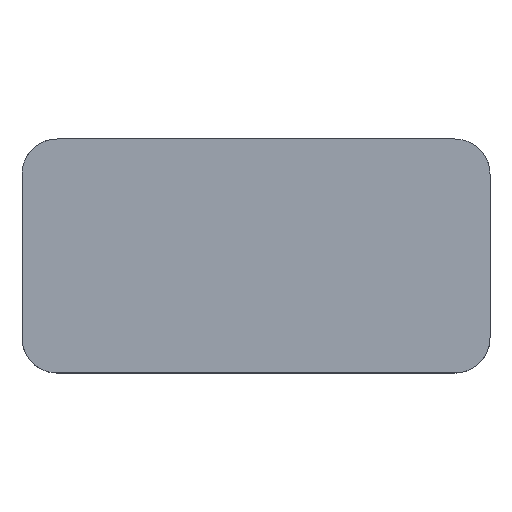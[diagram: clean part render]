
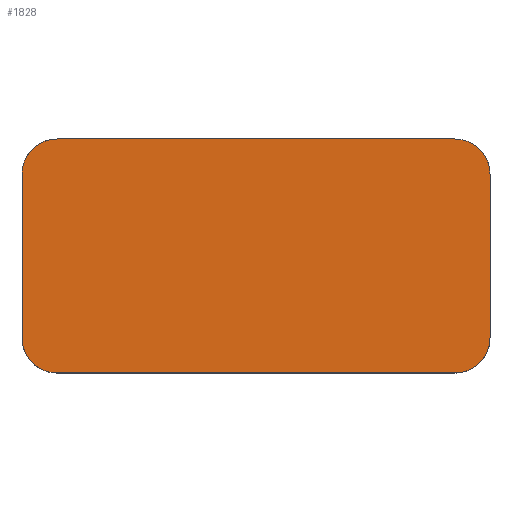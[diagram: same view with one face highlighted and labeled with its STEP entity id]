
A CAD part, top view. The second image highlights one B-rep face of the part: STEP entity #1828.
In plain terms, the highlighted planar face has unit normal (0, 0, 1).
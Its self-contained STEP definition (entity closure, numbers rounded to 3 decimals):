
#47 = CIRCLE ( 'NONE', #1235, 3. ) ;
#103 = DIRECTION ( 'NONE',  ( 1., 0., 0. ) ) ;
#115 = ORIENTED_EDGE ( 'NONE', *, *, #2777, .T. ) ;
#128 = VECTOR ( 'NONE', #1963, 1000. ) ;
#288 = CIRCLE ( 'NONE', #1682, 3. ) ;
#362 = DIRECTION ( 'NONE',  ( 0., 0., 1. ) ) ;
#376 = VERTEX_POINT ( 'NONE', #2629 ) ;
#457 = VERTEX_POINT ( 'NONE', #2207 ) ;
#562 = CARTESIAN_POINT ( 'NONE',  ( -17., -7., 12. ) ) ;
#568 = DIRECTION ( 'NONE',  ( 0., 0., 1. ) ) ;
#597 = LINE ( 'NONE', #1352, #1950 ) ;
#601 = AXIS2_PLACEMENT_3D ( 'NONE', #729, #1163, #2532 ) ;
#653 = AXIS2_PLACEMENT_3D ( 'NONE', #562, #2818, #2161 ) ;
#656 = CARTESIAN_POINT ( 'NONE',  ( -20., 7., 12. ) ) ;
#671 = CARTESIAN_POINT ( 'NONE',  ( -17., -10., 12. ) ) ;
#683 = FACE_OUTER_BOUND ( 'NONE', #1593, .T. ) ;
#703 = EDGE_CURVE ( 'NONE', #1282, #2113, #2371, .T. ) ;
#729 = CARTESIAN_POINT ( 'NONE',  ( -20., -10., 12. ) ) ;
#735 = ORIENTED_EDGE ( 'NONE', *, *, #2871, .T. ) ;
#779 = DIRECTION ( 'NONE',  ( 1., 0., 0. ) ) ;
#794 = DIRECTION ( 'NONE',  ( 1., 0., 0. ) ) ;
#822 = CARTESIAN_POINT ( 'NONE',  ( -20., 10., 12. ) ) ;
#857 = DIRECTION ( 'NONE',  ( 0., 1., 0. ) ) ;
#1016 = VERTEX_POINT ( 'NONE', #1379 ) ;
#1020 = VERTEX_POINT ( 'NONE', #1607 ) ;
#1163 = DIRECTION ( 'NONE',  ( 0., 0., 1. ) ) ;
#1235 = AXIS2_PLACEMENT_3D ( 'NONE', #1469, #568, #103 ) ;
#1253 = ORIENTED_EDGE ( 'NONE', *, *, #1377, .T. ) ;
#1282 = VERTEX_POINT ( 'NONE', #671 ) ;
#1301 = CARTESIAN_POINT ( 'NONE',  ( 20., 10., 12. ) ) ;
#1352 = CARTESIAN_POINT ( 'NONE',  ( -20., 10., 12. ) ) ;
#1358 = ORIENTED_EDGE ( 'NONE', *, *, #1622, .T. ) ;
#1373 = VERTEX_POINT ( 'NONE', #2639 ) ;
#1377 = EDGE_CURVE ( 'NONE', #1373, #457, #597, .T. ) ;
#1379 = CARTESIAN_POINT ( 'NONE',  ( 20., -7., 12. ) ) ;
#1469 = CARTESIAN_POINT ( 'NONE',  ( 17., 7., 12. ) ) ;
#1510 = CIRCLE ( 'NONE', #1712, 3. ) ;
#1533 = LINE ( 'NONE', #1301, #2913 ) ;
#1584 = PLANE ( 'NONE',  #601 ) ;
#1593 = EDGE_LOOP ( 'NONE', ( #2374, #1358, #2130, #735, #115, #1603, #1253, #2149 ) ) ;
#1603 = ORIENTED_EDGE ( 'NONE', *, *, #2875, .T. ) ;
#1607 = CARTESIAN_POINT ( 'NONE',  ( 20., 7., 12. ) ) ;
#1622 = EDGE_CURVE ( 'NONE', #376, #1282, #2807, .T. ) ;
#1682 = AXIS2_PLACEMENT_3D ( 'NONE', #2176, #2864, #794 ) ;
#1712 = AXIS2_PLACEMENT_3D ( 'NONE', #2920, #362, #1781 ) ;
#1754 = VERTEX_POINT ( 'NONE', #656 ) ;
#1781 = DIRECTION ( 'NONE',  ( 1., 0., 0. ) ) ;
#1828 = ADVANCED_FACE ( 'NONE', ( #683 ), #1584, .T. ) ;
#1913 = CARTESIAN_POINT ( 'NONE',  ( -20., -10., 12. ) ) ;
#1950 = VECTOR ( 'NONE', #2756, 1000. ) ;
#1963 = DIRECTION ( 'NONE',  ( 0., -1., 0. ) ) ;
#2031 = EDGE_CURVE ( 'NONE', #457, #1754, #1510, .T. ) ;
#2044 = EDGE_CURVE ( 'NONE', #1754, #376, #2688, .T. ) ;
#2113 = VERTEX_POINT ( 'NONE', #2795 ) ;
#2130 = ORIENTED_EDGE ( 'NONE', *, *, #703, .T. ) ;
#2149 = ORIENTED_EDGE ( 'NONE', *, *, #2031, .T. ) ;
#2161 = DIRECTION ( 'NONE',  ( 1., 0., 0. ) ) ;
#2176 = CARTESIAN_POINT ( 'NONE',  ( 17., -7., 12. ) ) ;
#2207 = CARTESIAN_POINT ( 'NONE',  ( -17., 10., 12. ) ) ;
#2371 = LINE ( 'NONE', #1913, #2761 ) ;
#2374 = ORIENTED_EDGE ( 'NONE', *, *, #2044, .T. ) ;
#2532 = DIRECTION ( 'NONE',  ( 1., 0., 0. ) ) ;
#2629 = CARTESIAN_POINT ( 'NONE',  ( -20., -7., 12. ) ) ;
#2639 = CARTESIAN_POINT ( 'NONE',  ( 17., 10., 12. ) ) ;
#2688 = LINE ( 'NONE', #822, #128 ) ;
#2756 = DIRECTION ( 'NONE',  ( -1., 0., 0. ) ) ;
#2761 = VECTOR ( 'NONE', #779, 1000. ) ;
#2777 = EDGE_CURVE ( 'NONE', #1016, #1020, #1533, .T. ) ;
#2795 = CARTESIAN_POINT ( 'NONE',  ( 17., -10., 12. ) ) ;
#2807 = CIRCLE ( 'NONE', #653, 3. ) ;
#2818 = DIRECTION ( 'NONE',  ( 0., 0., 1. ) ) ;
#2864 = DIRECTION ( 'NONE',  ( 0., 0., 1. ) ) ;
#2871 = EDGE_CURVE ( 'NONE', #2113, #1016, #288, .T. ) ;
#2875 = EDGE_CURVE ( 'NONE', #1020, #1373, #47, .T. ) ;
#2913 = VECTOR ( 'NONE', #857, 1000. ) ;
#2920 = CARTESIAN_POINT ( 'NONE',  ( -17., 7., 12. ) ) ;
